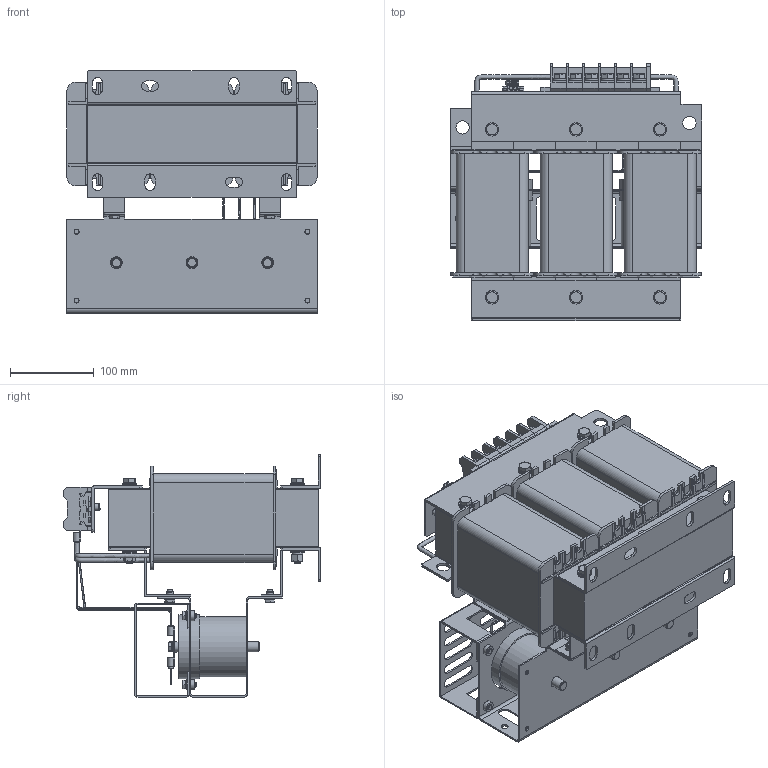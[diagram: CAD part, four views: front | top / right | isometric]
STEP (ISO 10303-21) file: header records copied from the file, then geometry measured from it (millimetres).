
FILE_DESCRIPTION(('STEP AP203'), '1');
FILE_NAME('蔓躅漤铋 耔眢耥 翳朦蝠 _ ISINOF-18.5_24-6', '', ('UNSPECIFIED'), ('UNSPECIFIED'), 'C3D Converter', 'C3D Toolkit', '');
FILE_SCHEMA(('CONFIG_CONTROL_DESIGN'));
Length unit declared in the file: millimetre
Products named in the file (44): ISINOF-18.5/24-6; DW16-06-02跚X2\041B04270423\X0\; LРНЦ吭X2\04560415\X0\1; RNB14-6S; 吒X2\0425\X0\72-80; 琵X2\0428\X0\崤X2\043A\X0\; 琵X2\04370418042D0458042C\X0\ ; ёЗЧУ; №ЗјЬG50X70X150; ї琵X2\041E\X0\做зЧУKV223-2P; А降еМх50-250-1; БщЅЗВЭЛЁM8; ИэПаМъРѕ250-250-80ЈЁ50-100; ЙПјРјю НЁУГ 50-100; ЙПјРјю50-100\X2\040Ô0448\X0\¶ЛЧУЦ§іЕ; МщЦЅ; ПВјРјю НЁУГ50-100; ПЯИ¦24A; plain washers--product grade c gb_GB_FASTENER_WASHER_SMWC 8; spring lock washers--normal type gb_GB_FASTENER_WASHER_SW 8; hexagon nuts grade c gb_GB_FASTENER_NUT_SNC1 M8-N; LРНЦ吭X2\04560415\X0\; plain washers--product grade c gb_GB_FASTENER_WASHER_SMWC 6; hex head bolts-full thread grade c gb_GB_FASTENER_BOLT_HHBFTC M6X12-N; Cable_1-gb_assembly-037; 琵X2\043704100412\X0\^Cable_1-gb_assembly-037; Cable_2-gb_assembly-029; 琵X2\043704100412\X0\^Cable_2-gb_assembly-029; Cable_3-gb_assembly-022; 琵X2\043704100412\X0\^Cable_3-gb_assembly-022; Cable_4-ХэПТІЁВЛІЁ琵X2\04370457211604160447\X0\SKS-SF-0024-6AЈЇ05; 琵X2\043704100412\X0\^Cable_4-ХэПТІЁВЛІЁ琵X2\04370457211604160447\X0\SKS-SF-0024-6AЈЇ05; Cable_5-ХэПТІЁВЛІЁ琵X2\04370457211604160447\X0\SKS-SF-0024-6AЈЇ05; 琵X2\043704100412\X0\^Cable_5-ХэПТІЁВЛІЁ琵X2\04370457211604160447\X0\SKS-SF-0024-6AЈЇ05; Cable_6-ХэПТІЁВЛІЁ琵X2\04370457211604160447\X0\SKS-SF-0024-6AЈЇ05; 琵X2\043704100412\X0\^Cable_6-ХэПТІЁВЛІЁ琵X2\04370457211604160447\X0\SKS-SF-0024-6AЈЇ05; Harness_6-ХэПТІЁВЛІЁ琵X2\04370457211604160447\X0\SKS-SF-0024-6AЈЇ05; 琵X2\043704100412\X0\^Harness_6-ХэПТІЁВЛІЁ琵X2\04370457211604160447\X0\SKS-SF-0024-6AЈЇ05; Cable_7-ХэПТІЁВЛІЁ琵X2\04370457211604160447\X0\SKS-SF-0024-6AЈЇ05; 琵X2\043704100412\X0\^Cable_7-ХэПТІЁВЛІЁ琵X2\04370457211604160447\X0\SKS-SF-0024-6AЈЇ05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
Assembly tree (132 placements, depth 3):
  ISINOF-18.5/24-6
    DW16-06-02跚X2\041B04270423\X0\
    LРНЦ吭X2\04560415\X0\1  x2
    RNB14-6S  x12
    吒X2\0425\X0\72-80  x3
    琵X2\0428\X0\崤X2\043A\X0\
    琵X2\04370418042D0458042C\X0\ 
    ёЗЧУ
    №ЗјЬG50X70X150  x3
    ї琵X2\041E\X0\做зЧУKV223-2P
    А降еМх50-250-1  x6
    БщЅЗВЭЛЁM8  x6
    ИэПаМъРѕ250-250-80ЈЁ50-100
    ЙПјРјю НЁУГ 50-100
    ЙПјРјю50-100\X2\040Ô0448\X0\¶ЛЧУЦ§іЕ
    МщЦЅ
    ПВјРјю НЁУГ50-100  x2
    ПЯИ¦24A  x3
    plain washers--product grade c gb_GB_FASTENER_WASHER_SMWC 8  x24
    spring lock washers--normal type gb_GB_FASTENER_WASHER_SW 8  x6
    hexagon nuts grade c gb_GB_FASTENER_NUT_SNC1 M8-N  x6
    LРНЦ吭X2\04560415\X0\  x2
    plain washers--product grade c gb_GB_FASTENER_WASHER_SMWC 6  x14
    hex head bolts-full thread grade c gb_GB_FASTENER_BOLT_HHBFTC M6X12-N  x14
    Cable_1-gb_assembly-037
      琵X2\043704100412\X0\^Cable_1-gb_assembly-037
    Cable_2-gb_assembly-029
      琵X2\043704100412\X0\^Cable_2-gb_assembly-029
    Cable_3-gb_assembly-022
      琵X2\043704100412\X0\^Cable_3-gb_assembly-022
    Cable_4-ХэПТІЁВЛІЁ琵X2\04370457211604160447\X0\SKS-SF-0024-6AЈЇ05
      琵X2\043704100412\X0\^Cable_4-ХэПТІЁВЛІЁ琵X2\04370457211604160447\X0\SKS-SF-0024-6AЈЇ05
    Cable_5-ХэПТІЁВЛІЁ琵X2\04370457211604160447\X0\SKS-SF-0024-6AЈЇ05
      琵X2\043704100412\X0\^Cable_5-ХэПТІЁВЛІЁ琵X2\04370457211604160447\X0\SKS-SF-0024-6AЈЇ05
    Cable_6-ХэПТІЁВЛІЁ琵X2\04370457211604160447\X0\SKS-SF-0024-6AЈЇ05
      琵X2\043704100412\X0\^Cable_6-ХэПТІЁВЛІЁ琵X2\04370457211604160447\X0\SKS-SF-0024-6AЈЇ05
    Harness_6-ХэПТІЁВЛІЁ琵X2\04370457211604160447\X0\SKS-SF-0024-6AЈЇ05
      琵X2\043704100412\X0\^Harness_6-ХэПТІЁВЛІЁ琵X2\04370457211604160447\X0\SKS-SF-0024-6AЈЇ05
    Cable_7-ХэПТІЁВЛІЁ琵X2\04370457211604160447\X0\SKS-SF-0024-6AЈЇ05
      琵X2\043704100412\X0\^Cable_7-ХэПТІЁВЛІЁ琵X2\04370457211604160447\X0\SKS-SF-0024-6AЈЇ05
    Cable_8-ХэПТІЁВЛІЁ琵X2\04370457211604160447\X0\SKS-SF-0024-6AЈЇ05
      琵X2\043704100412\X0\^Cable_8-ХэПТІЁВЛІЁ琵X2\04370457211604160447\X0\SKS-SF-0024-6AЈЇ05
    Cable_9-ХэПТІЁВЛІЁ琵X2\04370457211604160447\X0\SKS-SF-0024-6AЈЇ05
      琵X2\043704100412\X0\^Cable_9-ХэПТІЁВЛІЁ琵X2\04370457211604160447\X0\SKS-SF-0024-6AЈЇ05
Bounding box: 300 x 307 x 288.5 mm (x, y, z)
Volume: 7333858.9 mm3; surface area: 1706823.1 mm2
Topology: 188 solids, 188 shells, 3081 faces, 7513 edges, 4931 vertices
Faces by surface type: plane 2129, cylinder 696, cone 209, bspline 41, torus 6
Full cylindrical faces by diameter (mm): 3 x2, 3.8 x2, 4 x4, 5 x18, 6 x36, 6.2 x12, 6.4 x12, 6.6 x14, 6.647 x6, 8 x13, 8.68 x6, 9 x24, 10.7 x1, 11 x29, 12 x21, 12.5 x6, 12.88 x6, 14 x3, 16 x38, 18.2 x1, 19 x1, 20 x1, 72 x6, 76 x3, 80 x3
Entity records: 85858 total; most frequent: CARTESIAN_POINT 24462, ORIENTED_EDGE 8650, DIRECTION 8605, EDGE_CURVE 4325, LINE 3325, VECTOR 3325, VERTEX_POINT 2958, AXIS2_PLACEMENT_3D 2640
